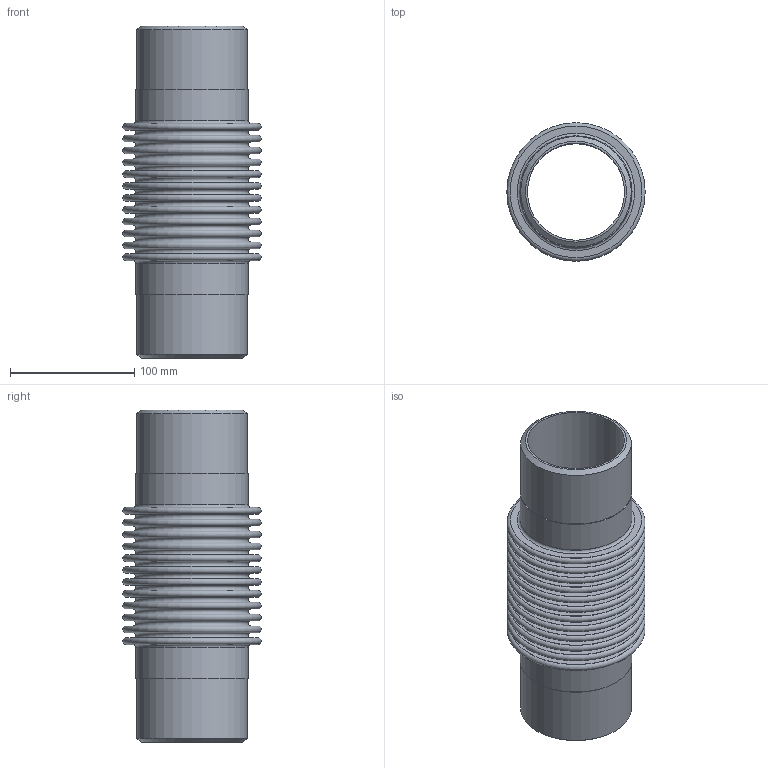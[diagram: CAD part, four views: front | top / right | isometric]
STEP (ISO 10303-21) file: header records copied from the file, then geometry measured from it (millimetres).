
FILE_DESCRIPTION(/* description */ ('EXPANSION JOINT,SINGLE, WELD ENDS,4 INCH NOMINAL'),/* implementation_level */ '2;1');
FILE_NAME(/* name */ 'ASSEMBLY US-3-12-150L.stp',/* time_stamp */ '2026-07-28T15:39:00-05:00',/* author */ ('jorgef'),/* organization */ (''),/* preprocessor_version */ 'ST-DEVELOPER v20.1',/* originating_system */ 'Autodesk Inventor 2026',/* authorisation */ '');
FILE_SCHEMA (('AUTOMOTIVE_DESIGN { 1 0 10303 214 3 1 1 }'));
Length unit declared in the file: inch
Products named in the file (3): ASSEMBLY  US-3-12-150L; STOCK BELLOW - US-3-12-150L; PIPE- US-3-12-150L
Assembly tree (3 placements, depth 2):
  ASSEMBLY  US-3-12-150L
    STOCK BELLOW - US-3-12-150L
    PIPE- US-3-12-150L  x2
Bounding box: 111.12 x 111.12 x 266.7 mm (x, y, z)
Volume: 285430.6 mm3; surface area: 313491.9 mm2
Topology: 5 solids, 5 shells, 118 faces, 180 edges, 121 vertices
Faces by surface type: plane 58, torus 50, cylinder 8, cone 2
Full cylindrical faces by diameter (mm): 77.927 x2, 88.9 x4, 90.119 x2
Entity records: 2769 total; most frequent: DIRECTION 573, CARTESIAN_POINT 405, ORIENTED_EDGE 342, AXIS2_PLACEMENT_3D 283, EDGE_CURVE 171, EDGE_LOOP 169, CIRCLE 164, VERTEX_POINT 114
